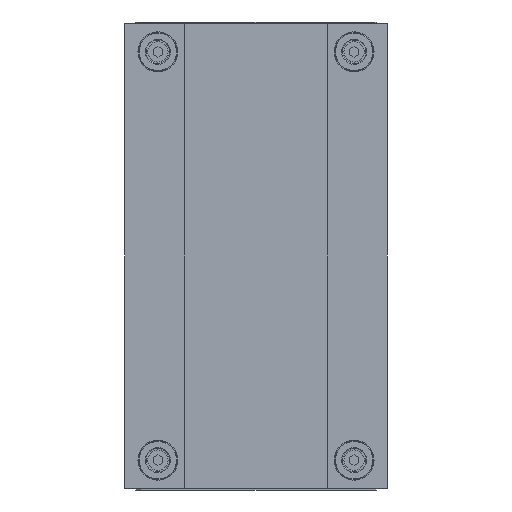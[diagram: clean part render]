
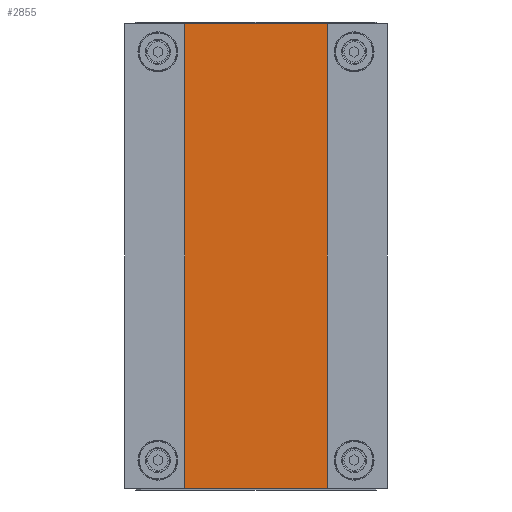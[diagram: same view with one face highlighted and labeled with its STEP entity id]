
A CAD part, front view. The second image highlights one B-rep face of the part: STEP entity #2855.
In plain terms, the highlighted planar face has unit normal (0, -1, 0).
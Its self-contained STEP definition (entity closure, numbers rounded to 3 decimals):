
#1433 = CARTESIAN_POINT ( 'NONE',  ( -49.5, -16., -148. ) ) ;
#1991 = LINE ( 'NONE', #1994, #1995 ) ;
#1994 = CARTESIAN_POINT ( 'NONE',  ( -49.5, -16., 148. ) ) ;
#1995 = VECTOR ( 'NONE', #1996, 1000. ) ;
#1996 = DIRECTION ( 'NONE',  ( 0., 0., -1. ) ) ;
#2162 = CARTESIAN_POINT ( 'NONE',  ( -49.5, -16., 148. ) ) ;
#2855 = ADVANCED_FACE ( 'NONE', ( #8531 ), #8532, .F. ) ;
#3144 = EDGE_LOOP ( 'NONE', ( #3602, #4452, #4927, #5170 ) ) ;
#3146 = CARTESIAN_POINT ( 'NONE',  ( 49.5, -16., 148. ) ) ;
#3494 = LINE ( 'NONE', #3495, #3496 ) ;
#3495 = CARTESIAN_POINT ( 'NONE',  ( 49.5, -16., 148. ) ) ;
#3496 = VECTOR ( 'NONE', #3497, 1000. ) ;
#3497 = DIRECTION ( 'NONE',  ( 0., 0., -1. ) ) ;
#3602 = ORIENTED_EDGE ( 'NONE', *, *, #3932, .T. ) ;
#3932 = EDGE_CURVE ( 'NONE', #9146, #7085, #8843, .T. ) ;
#4452 = ORIENTED_EDGE ( 'NONE', *, *, #6406, .F. ) ;
#4927 = ORIENTED_EDGE ( 'NONE', *, *, #5100, .F. ) ;
#5100 = EDGE_CURVE ( 'NONE', #10183, #6210, #9868, .T. ) ;
#5170 = ORIENTED_EDGE ( 'NONE', *, *, #9941, .T. ) ;
#6210 = VERTEX_POINT ( 'NONE', #3146 ) ;
#6406 = EDGE_CURVE ( 'NONE', #6210, #7085, #3494, .T. ) ;
#7085 = VERTEX_POINT ( 'NONE', #9370 ) ;
#8531 = FACE_OUTER_BOUND ( 'NONE', #3144, .T. ) ;
#8532 = PLANE ( 'NONE',  #8533 ) ;
#8533 = AXIS2_PLACEMENT_3D ( 'NONE', #8534, #8535, #8536 ) ;
#8534 = CARTESIAN_POINT ( 'NONE',  ( 49.5, -16., 148. ) ) ;
#8535 = DIRECTION ( 'NONE',  ( 0., 1., 0. ) ) ;
#8536 = DIRECTION ( 'NONE',  ( -1., 0., 0. ) ) ;
#8843 = LINE ( 'NONE', #8844, #8845 ) ;
#8844 = CARTESIAN_POINT ( 'NONE',  ( 49.5, -16., -148. ) ) ;
#8845 = VECTOR ( 'NONE', #8846, 1000. ) ;
#8846 = DIRECTION ( 'NONE',  ( 1., 0., 0. ) ) ;
#9146 = VERTEX_POINT ( 'NONE', #1433 ) ;
#9370 = CARTESIAN_POINT ( 'NONE',  ( 49.5, -16., -148. ) ) ;
#9868 = LINE ( 'NONE', #9869, #9870 ) ;
#9869 = CARTESIAN_POINT ( 'NONE',  ( 49.5, -16., 148. ) ) ;
#9870 = VECTOR ( 'NONE', #9871, 1000. ) ;
#9871 = DIRECTION ( 'NONE',  ( 1., 0., 0. ) ) ;
#9941 = EDGE_CURVE ( 'NONE', #10183, #9146, #1991, .T. ) ;
#10183 = VERTEX_POINT ( 'NONE', #2162 ) ;
